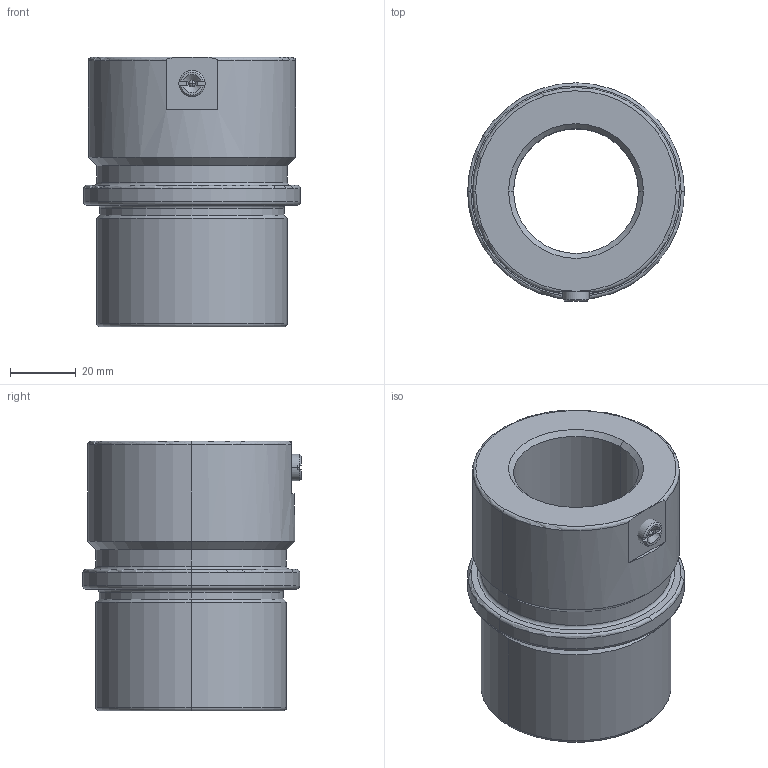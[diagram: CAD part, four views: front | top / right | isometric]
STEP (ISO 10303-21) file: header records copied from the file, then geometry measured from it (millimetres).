
FILE_DESCRIPTION(('CATIA V5 STEP Exchange'),'2;1');
FILE_NAME('C:\Users\Utente\Desktop\IO LAVORO\3D X SITO CF\X SITO\744\744-38.stp','2020-12-23T21:15:16+00:00',('none'),('none'),'CATIA Version 5 Release 20 GA (IN-10)','CATIA V5 STEP AP203','none');
FILE_SCHEMA(('CONFIG_CONTROL_DESIGN'));
Length unit declared in the file: millimetre
Products named in the file (1): 744-38
Bounding box: 66 x 66.5 x 82 mm (x, y, z)
Volume: 142272.6 mm3; surface area: 30686.7 mm2
Topology: 2 solids, 2 shells, 67 faces, 156 edges, 92 vertices
Faces by surface type: cylinder 16, plane 16, cone 16, torus 15, sphere 4
Entity records: 2039 total; most frequent: CARTESIAN_POINT 541, ORIENTED_EDGE 304, DIRECTION 266, AXIS2_PLACEMENT_3D 155, EDGE_CURVE 152, VERTEX_POINT 92, CIRCLE 87, EDGE_LOOP 74
